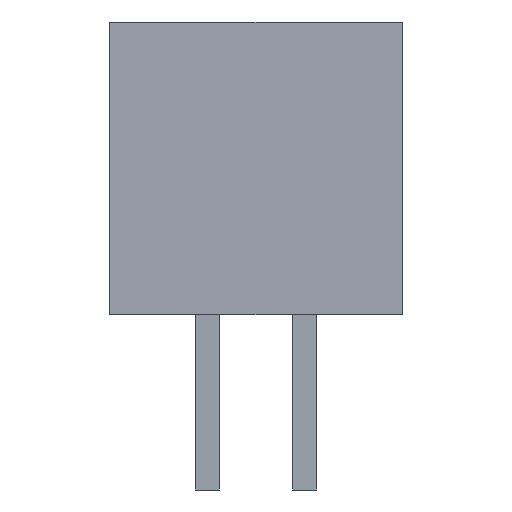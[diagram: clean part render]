
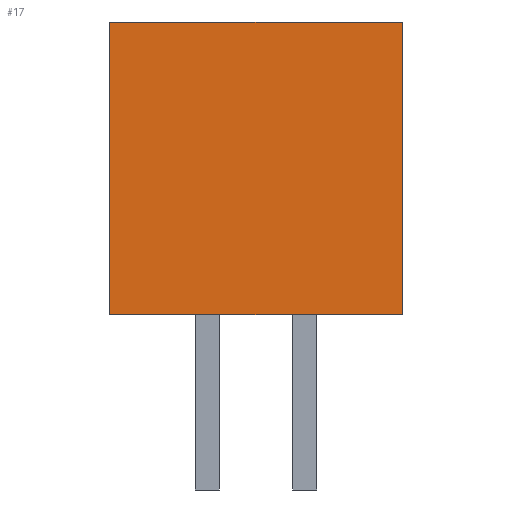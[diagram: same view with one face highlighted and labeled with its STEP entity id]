
A CAD part, left-side view. The second image highlights one B-rep face of the part: STEP entity #17.
In plain terms, the highlighted planar face has unit normal (-1, 0, 0).
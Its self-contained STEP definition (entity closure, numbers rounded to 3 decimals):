
#17 = ADVANCED_FACE('',(#18),#32,.F.);
#18 = FACE_BOUND('',#19,.F.);
#19 = EDGE_LOOP('',(#20,#55,#83,#111));
#20 = ORIENTED_EDGE('',*,*,#21,.F.);
#21 = EDGE_CURVE('',#22,#24,#26,.T.);
#22 = VERTEX_POINT('',#23);
#23 = CARTESIAN_POINT('',(0.,0.,0.));
#24 = VERTEX_POINT('',#25);
#25 = CARTESIAN_POINT('',(0.,0.,6.));
#26 = SURFACE_CURVE('',#27,(#31,#43),.PCURVE_S1.);
#27 = LINE('',#28,#29);
#28 = CARTESIAN_POINT('',(0.,0.,0.));
#29 = VECTOR('',#30,1.);
#30 = DIRECTION('',(0.,0.,1.));
#31 = PCURVE('',#32,#37);
#32 = PLANE('',#33);
#33 = AXIS2_PLACEMENT_3D('',#34,#35,#36);
#34 = CARTESIAN_POINT('',(0.,0.,0.));
#35 = DIRECTION('',(1.,0.,0.));
#36 = DIRECTION('',(0.,0.,1.));
#37 = DEFINITIONAL_REPRESENTATION('',(#38),#42);
#38 = LINE('',#39,#40);
#39 = CARTESIAN_POINT('',(0.,0.));
#40 = VECTOR('',#41,1.);
#41 = DIRECTION('',(1.,0.));
#42 = ( GEOMETRIC_REPRESENTATION_CONTEXT(2) 
PARAMETRIC_REPRESENTATION_CONTEXT() REPRESENTATION_CONTEXT('2D SPACE',''
  ) );
#43 = PCURVE('',#44,#49);
#44 = PLANE('',#45);
#45 = AXIS2_PLACEMENT_3D('',#46,#47,#48);
#46 = CARTESIAN_POINT('',(0.,0.,0.));
#47 = DIRECTION('',(0.,1.,0.));
#48 = DIRECTION('',(0.,0.,1.));
#49 = DEFINITIONAL_REPRESENTATION('',(#50),#54);
#50 = LINE('',#51,#52);
#51 = CARTESIAN_POINT('',(0.,0.));
#52 = VECTOR('',#53,1.);
#53 = DIRECTION('',(1.,0.));
#54 = ( GEOMETRIC_REPRESENTATION_CONTEXT(2) 
PARAMETRIC_REPRESENTATION_CONTEXT() REPRESENTATION_CONTEXT('2D SPACE',''
  ) );
#55 = ORIENTED_EDGE('',*,*,#56,.T.);
#56 = EDGE_CURVE('',#22,#57,#59,.T.);
#57 = VERTEX_POINT('',#58);
#58 = CARTESIAN_POINT('',(0.,6.,0.));
#59 = SURFACE_CURVE('',#60,(#64,#71),.PCURVE_S1.);
#60 = LINE('',#61,#62);
#61 = CARTESIAN_POINT('',(0.,0.,0.));
#62 = VECTOR('',#63,1.);
#63 = DIRECTION('',(0.,1.,0.));
#64 = PCURVE('',#32,#65);
#65 = DEFINITIONAL_REPRESENTATION('',(#66),#70);
#66 = LINE('',#67,#68);
#67 = CARTESIAN_POINT('',(0.,0.));
#68 = VECTOR('',#69,1.);
#69 = DIRECTION('',(0.,-1.));
#70 = ( GEOMETRIC_REPRESENTATION_CONTEXT(2) 
PARAMETRIC_REPRESENTATION_CONTEXT() REPRESENTATION_CONTEXT('2D SPACE',''
  ) );
#71 = PCURVE('',#72,#77);
#72 = PLANE('',#73);
#73 = AXIS2_PLACEMENT_3D('',#74,#75,#76);
#74 = CARTESIAN_POINT('',(0.,0.,0.));
#75 = DIRECTION('',(0.,0.,1.));
#76 = DIRECTION('',(1.,0.,0.));
#77 = DEFINITIONAL_REPRESENTATION('',(#78),#82);
#78 = LINE('',#79,#80);
#79 = CARTESIAN_POINT('',(0.,0.));
#80 = VECTOR('',#81,1.);
#81 = DIRECTION('',(0.,1.));
#82 = ( GEOMETRIC_REPRESENTATION_CONTEXT(2) 
PARAMETRIC_REPRESENTATION_CONTEXT() REPRESENTATION_CONTEXT('2D SPACE',''
  ) );
#83 = ORIENTED_EDGE('',*,*,#84,.T.);
#84 = EDGE_CURVE('',#57,#85,#87,.T.);
#85 = VERTEX_POINT('',#86);
#86 = CARTESIAN_POINT('',(0.,6.,6.));
#87 = SURFACE_CURVE('',#88,(#92,#99),.PCURVE_S1.);
#88 = LINE('',#89,#90);
#89 = CARTESIAN_POINT('',(0.,6.,0.));
#90 = VECTOR('',#91,1.);
#91 = DIRECTION('',(0.,0.,1.));
#92 = PCURVE('',#32,#93);
#93 = DEFINITIONAL_REPRESENTATION('',(#94),#98);
#94 = LINE('',#95,#96);
#95 = CARTESIAN_POINT('',(0.,-6.));
#96 = VECTOR('',#97,1.);
#97 = DIRECTION('',(1.,0.));
#98 = ( GEOMETRIC_REPRESENTATION_CONTEXT(2) 
PARAMETRIC_REPRESENTATION_CONTEXT() REPRESENTATION_CONTEXT('2D SPACE',''
  ) );
#99 = PCURVE('',#100,#105);
#100 = PLANE('',#101);
#101 = AXIS2_PLACEMENT_3D('',#102,#103,#104);
#102 = CARTESIAN_POINT('',(0.,6.,0.));
#103 = DIRECTION('',(0.,1.,0.));
#104 = DIRECTION('',(0.,0.,1.));
#105 = DEFINITIONAL_REPRESENTATION('',(#106),#110);
#106 = LINE('',#107,#108);
#107 = CARTESIAN_POINT('',(0.,0.));
#108 = VECTOR('',#109,1.);
#109 = DIRECTION('',(1.,0.));
#110 = ( GEOMETRIC_REPRESENTATION_CONTEXT(2) 
PARAMETRIC_REPRESENTATION_CONTEXT() REPRESENTATION_CONTEXT('2D SPACE',''
  ) );
#111 = ORIENTED_EDGE('',*,*,#112,.F.);
#112 = EDGE_CURVE('',#24,#85,#113,.T.);
#113 = SURFACE_CURVE('',#114,(#118,#125),.PCURVE_S1.);
#114 = LINE('',#115,#116);
#115 = CARTESIAN_POINT('',(0.,0.,6.));
#116 = VECTOR('',#117,1.);
#117 = DIRECTION('',(0.,1.,0.));
#118 = PCURVE('',#32,#119);
#119 = DEFINITIONAL_REPRESENTATION('',(#120),#124);
#120 = LINE('',#121,#122);
#121 = CARTESIAN_POINT('',(6.,0.));
#122 = VECTOR('',#123,1.);
#123 = DIRECTION('',(0.,-1.));
#124 = ( GEOMETRIC_REPRESENTATION_CONTEXT(2) 
PARAMETRIC_REPRESENTATION_CONTEXT() REPRESENTATION_CONTEXT('2D SPACE',''
  ) );
#125 = PCURVE('',#126,#131);
#126 = PLANE('',#127);
#127 = AXIS2_PLACEMENT_3D('',#128,#129,#130);
#128 = CARTESIAN_POINT('',(0.,0.,6.));
#129 = DIRECTION('',(0.,0.,1.));
#130 = DIRECTION('',(1.,0.,0.));
#131 = DEFINITIONAL_REPRESENTATION('',(#132),#136);
#132 = LINE('',#133,#134);
#133 = CARTESIAN_POINT('',(0.,0.));
#134 = VECTOR('',#135,1.);
#135 = DIRECTION('',(0.,1.));
#136 = ( GEOMETRIC_REPRESENTATION_CONTEXT(2) 
PARAMETRIC_REPRESENTATION_CONTEXT() REPRESENTATION_CONTEXT('2D SPACE',''
  ) );
